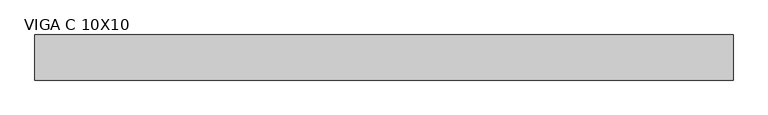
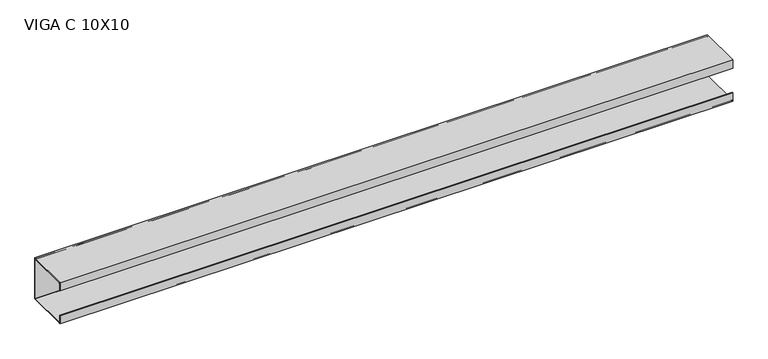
"""IFC4 building model written with IfcOpenShell, lengths in millimetres: beam geometry, VIGA PERFIL C AÇO : VIGA C 10X10."""

import ifcopenshell
import ifcopenshell.guid

model = None  # the IFC model being written
_history = None  # IfcOwnerHistory: only IFC2X3 demands one
_inside = {}  # id of a spatial element -> (the spatial element, [elements in it])
_under = {}  # id of a project, library or spatial element -> (it, [spatial elements below it])
_declared = {}  # id of a project -> (the project, [libraries it declares])
_typed = {}  # id of a type object -> (the type object, [elements of that type])
_made_of = {}  # id of a material, layer set ... -> (it, [elements and type objects made of it])


def new_model(schema):
    """Start an empty IFC model of exactly this schema.

    Asked for "IFC4X3", IfcOpenShell would pick the latest addendum, in which some entities
    have other attributes; the version numbers below select the first issue.
    IFC2X3 requires an IfcOwnerHistory on every rooted entity: one is made here for all.
    """
    global model, _history
    if schema == "IFC4X3":
        model = ifcopenshell.file(schema_version=(4, 3, 0, 0))
    else:
        model = ifcopenshell.file(schema=schema)
    _inside.clear()
    _under.clear()
    _declared.clear()
    _typed.clear()
    _made_of.clear()
    _history = None
    if model.schema == "IFC2X3":
        org = make("IfcOrganization", Name="unknown")
        user = make(
            "IfcPersonAndOrganization",
            ThePerson=make("IfcPerson", FamilyName="unknown"),
            TheOrganization=org,
        )
        app = make(
            "IfcApplication",
            ApplicationDeveloper=org,
            Version="unknown",
            ApplicationFullName="unknown",
            ApplicationIdentifier="unknown",
        )
        _history = make(
            "IfcOwnerHistory",
            OwningUser=user,
            OwningApplication=app,
            ChangeAction="ADDED",
            CreationDate=0,
        )
    return model


def make(cls, **values):
    """One entity of the class cls with the attributes given. An attribute that is None is left unset."""
    return model.create_entity(
        cls, **{name: value for name, value in values.items() if value is not None}
    )


def rooted(cls, **values):
    """An entity with a GlobalId (a new one), such as an element, a storey or a relation."""
    return make(cls, GlobalId=ifcopenshell.guid.new(), OwnerHistory=_history, **values)


def si_unit(unit_type, name, prefix=None):
    """IfcSIUnit, for example si_unit("LENGTHUNIT", "METRE", prefix="MILLI")."""
    return make("IfcSIUnit", UnitType=unit_type, Prefix=prefix, Name=name)


def assignment(units):
    """IfcUnitAssignment: the units of a project."""
    return None if units is None else make("IfcUnitAssignment", Units=units)


def point(xyz):
    """IfcCartesianPoint."""
    return None if xyz is None else make("IfcCartesianPoint", Coordinates=xyz)


def direction(xyz):
    """IfcDirection."""
    return None if xyz is None else make("IfcDirection", DirectionRatios=xyz)


def frame(location, z_axis=None, x_axis=None):
    """IfcAxis2Placement3D, a coordinate frame: its origin and axes. An axis left out is left unset."""
    return make(
        "IfcAxis2Placement3D",
        Location=point(location),
        Axis=direction(z_axis),
        RefDirection=direction(x_axis),
    )


def frame_2d(location, x_axis=None):
    """IfcAxis2Placement2D, a coordinate frame in the plane: its origin and x axis."""
    return make(
        "IfcAxis2Placement2D", Location=point(location), RefDirection=direction(x_axis)
    )


def origin():
    """The frame at (0, 0, 0) with its axes left unset."""
    return frame((0.0, 0.0, 0.0))


def place(relative_to, where):
    """IfcLocalPlacement: puts the frame where relative to a parent placement (None: the world)."""
    return make(
        "IfcLocalPlacement", PlacementRelTo=relative_to, RelativePlacement=where
    )


def context(
    kind, dimensions, precision=None, world=None, true_north=None, identifier=None
):
    """IfcGeometricRepresentationContext, for example the 3D "Model" context."""
    return make(
        "IfcGeometricRepresentationContext",
        ContextIdentifier=identifier,
        ContextType=kind,
        CoordinateSpaceDimension=dimensions,
        Precision=precision,
        WorldCoordinateSystem=world,
        TrueNorth=true_north,
    )


def project(units=None, contexts=None):
    """IfcProject with its units and contexts."""
    return rooted(
        "IfcProject",
        Name="project",
        RepresentationContexts=contexts,
        UnitsInContext=assignment(units),
    )


def spatial(cls, under=None, at=None, **own):
    """A site, building, storey or space (cls), placed at a placement, below another one or the project."""
    s = rooted(cls, ObjectPlacement=at, **own)
    if under is not None:
        _under.setdefault(under.id(), (under, []))[1].append(s)
    return s


def polyline(points):
    """IfcPolyline through the points."""
    return make("IfcPolyline", Points=[point(p) for p in points])


def circle_curve(where, radius):
    """IfcCircle in the frame where."""
    return make("IfcCircle", Position=where, Radius=radius)


def trimmed(basis, trim1, trim2, sense, master):
    """IfcTrimmedCurve: the piece of a basis curve between two trims."""
    return make(
        "IfcTrimmedCurve",
        BasisCurve=basis,
        Trim1=trim1,
        Trim2=trim2,
        SenseAgreement=sense,
        MasterRepresentation=master,
    )


def segment(curve, same_sense, transition):
    """IfcCompositeCurveSegment."""
    return make(
        "IfcCompositeCurveSegment",
        Transition=transition,
        SameSense=same_sense,
        ParentCurve=curve,
    )


def composite_curve(segments, self_intersect=None):
    """IfcCompositeCurve: segments joined end to end."""
    return make("IfcCompositeCurve", Segments=segments, SelfIntersect=self_intersect)


def outline(outer, holes=None, kind="AREA"):
    """IfcArbitraryClosedProfileDef: a profile drawn as a closed curve; with holes, ...WithVoids."""
    if holes is None:
        return make("IfcArbitraryClosedProfileDef", ProfileType=kind, OuterCurve=outer)
    return make(
        "IfcArbitraryProfileDefWithVoids",
        ProfileType=kind,
        OuterCurve=outer,
        InnerCurves=holes,
    )


def extrude(swept, where, along, depth):
    """IfcExtrudedAreaSolid: the profile swept, set in the frame where, extruded along a direction by depth."""
    return make(
        "IfcExtrudedAreaSolid",
        SweptArea=swept,
        Position=where,
        ExtrudedDirection=direction(along),
        Depth=depth,
    )


def shape(context_of_items, identifier, shape_type, items):
    """IfcShapeRepresentation: the items that make up one representation, for example the "Body"."""
    return make(
        "IfcShapeRepresentation",
        ContextOfItems=context_of_items,
        RepresentationIdentifier=identifier,
        RepresentationType=shape_type,
        Items=items,
    )


def source(mapping_origin, context_of_items, identifier, shape_type, items):
    """IfcRepresentationMap: a shape defined once, which mapped items show again and again."""
    return make(
        "IfcRepresentationMap",
        MappingOrigin=mapping_origin,
        MappedRepresentation=shape(context_of_items, identifier, shape_type, items),
    )


def transform(
    local_origin,
    x_axis=None,
    y_axis=None,
    z_axis=None,
    scale=None,
    scale2=None,
    scale3=None,
    uniform=True,
):
    """IfcCartesianTransformationOperator3D, or its non-uniform kind. x_axis, y_axis, z_axis: its Axis1, 2, 3."""
    if uniform:
        return make(
            "IfcCartesianTransformationOperator3D",
            Axis1=direction(x_axis),
            Axis2=direction(y_axis),
            LocalOrigin=point(local_origin),
            Scale=scale,
            Axis3=direction(z_axis),
        )
    return make(
        "IfcCartesianTransformationOperator3DnonUniform",
        Axis1=direction(x_axis),
        Axis2=direction(y_axis),
        LocalOrigin=point(local_origin),
        Scale=scale,
        Axis3=direction(z_axis),
        Scale2=scale2,
        Scale3=scale3,
    )


def mapped(mapping_source, mapping_target):
    """IfcMappedItem: shows the shape of a source again, moved by a transform."""
    return make(
        "IfcMappedItem", MappingSource=mapping_source, MappingTarget=mapping_target
    )


def made_of(thing, what):
    """Note that an element or type object is made of a material, layer set ...; save() writes the relation."""
    if what is not None:
        _made_of.setdefault(what.id(), (what, []))[1].append(thing)
    return thing


def element(
    cls,
    number,
    at=None,
    inside=None,
    cuts=None,
    type_object=None,
    material=None,
    context=None,
    identifier="Body",
    shape_type=None,
    held_by="IfcProductDefinitionShape",
    body=None,
    shapes=None,
    **own,
):
    """One element of the class cls, such as IfcWall. Its Tag is "e" and its number.

    at: its placement. inside: the storey or other place that contains it. cuts: it is an
    opening in that element (IfcRelVoidsElement). A single representation is given by context,
    identifier, shape_type and body (its items); several are given by shapes. held_by: the class
    of the entity that holds the representations. save() writes the other relations.
    """
    e = rooted(cls, Tag="e%d" % number, ObjectPlacement=at, **own)
    if body is not None:
        shapes = [shape(context, identifier, shape_type, body)]
    if shapes is not None:
        e.Representation = make(held_by, Representations=shapes)
    if inside is not None:
        _inside.setdefault(inside.id(), (inside, []))[1].append(e)
    if cuts is not None:
        rooted(
            "IfcRelVoidsElement", RelatingBuildingElement=cuts, RelatedOpeningElement=e
        )
    if type_object is not None:
        _typed.setdefault(type_object.id(), (type_object, []))[1].append(e)
    return made_of(e, material)


def aggregate(whole, parts):
    """IfcRelAggregates: a whole, such as a stair, and the parts it consists of."""
    return rooted("IfcRelAggregates", RelatingObject=whole, RelatedObjects=parts)


def save(model, path):
    """Write the relations noted so far, then the file.

    IfcRelAggregates (storeys below a building ...), IfcRelContainedInSpatialStructure (elements
    in a storey), IfcRelDefinesByType, IfcRelAssociatesMaterial and IfcRelDeclares: one each for
    every whole, place, type object, material and project.
    """
    for whole, parts in _under.values():
        aggregate(whole, parts)
    for where, things in _inside.values():
        rooted(
            "IfcRelContainedInSpatialStructure",
            RelatedElements=things,
            RelatingStructure=where,
        )
    for kind, things in _typed.values():
        rooted("IfcRelDefinesByType", RelatedObjects=things, RelatingType=kind)
    for what, things in _made_of.values():
        rooted("IfcRelAssociatesMaterial", RelatedObjects=things, RelatingMaterial=what)
    for by, libraries in _declared.values():
        rooted("IfcRelDeclares", RelatingContext=by, RelatedDefinitions=libraries)
    model.write(path)


def viga_c_10x10_66f59e24(model_context):
    return source(origin(), model_context, "Body", "SweptSolid", [
        extrude(outline(polyline([(9.2, -50.0), (-90.8, -50.0), (-90.8, -30.0), (-88.9, -30.0), (-88.9, -48.1), (7.3, -48.1), (7.3, 48.1), (-88.9, 48.1), (-88.9, 30.0), (-90.8, 30.0), (-90.8, 50.0), (9.2, 50.0), (9.2, -50.0)])), frame((-797.5, 0.0, 0.0), z_axis=(1.0, 0.0, 0.0), x_axis=(0.0, 1.0, 0.0)), (0.0, 0.0, 1.0), 1547.0),
        extrude(outline(composite_curve([segment(trimmed(circle_curve(frame_2d((5.4, -46.2)), 3.8), [point((9.2, -46.2))], [point((5.4, -50.0))], False, "CARTESIAN"), True, "CONTINUOUS"), segment(polyline([(5.4, -50.0), (-87.0, -50.0)]), True, "CONTINUOUS"), segment(trimmed(circle_curve(frame_2d((-87.0, -46.2)), 3.8), [point((-87.0, -50.0))], [point((-90.8, -46.2))], False, "CARTESIAN"), True, "CONTINUOUS"), segment(polyline([(-90.8, -46.2), (-90.8, -30.0), (-88.9, -30.0), (-88.9, -46.2)]), True, "CONTINUOUS"), segment(trimmed(circle_curve(frame_2d((-87.0, -46.2)), 1.9), [point((-88.9, -46.2))], [point((-87.0, -48.1))], True, "CARTESIAN"), True, "CONTINUOUS"), segment(polyline([(-87.0, -48.1), (5.4, -48.1)]), True, "CONTINUOUS"), segment(trimmed(circle_curve(frame_2d((5.4, -46.2)), 1.9), [point((5.4, -48.1))], [point((7.3, -46.2))], True, "CARTESIAN"), True, "CONTINUOUS"), segment(polyline([(7.3, -46.2), (7.3, 46.2)]), True, "CONTINUOUS"), segment(trimmed(circle_curve(frame_2d((5.4, 46.2)), 1.9), [point((7.3, 46.2))], [point((5.4, 48.1))], True, "CARTESIAN"), True, "CONTINUOUS"), segment(polyline([(5.4, 48.1), (-87.0, 48.1)]), True, "CONTINUOUS"), segment(trimmed(circle_curve(frame_2d((-87.0, 46.2)), 1.9), [point((-87.0, 48.1))], [point((-88.9, 46.2))], True, "CARTESIAN"), True, "CONTINUOUS"), segment(polyline([(-88.9, 46.2), (-88.9, 30.0), (-90.8, 30.0), (-90.8, 46.2)]), True, "CONTINUOUS"), segment(trimmed(circle_curve(frame_2d((-87.0, 46.2)), 3.8), [point((-90.8, 46.2))], [point((-87.0, 50.0))], False, "CARTESIAN"), True, "CONTINUOUS"), segment(polyline([(-87.0, 50.0), (5.4, 50.0)]), True, "CONTINUOUS"), segment(trimmed(circle_curve(frame_2d((5.4, 46.2)), 3.8), [point((5.4, 50.0))], [point((9.2, 46.2))], False, "CARTESIAN"), True, "CONTINUOUS"), segment(polyline([(9.2, 46.2), (9.2, -46.2)]), True, "CONTINUOUS")], self_intersect=False)), frame((-797.5, 0.0, 0.0), z_axis=(1.0, 0.0, 0.0), x_axis=(0.0, 1.0, 0.0)), (0.0, 0.0, 1.0), 1547.0),
    ])


if __name__ == "__main__":
    model = new_model("IFC4")
    model_context = context("Model", 3, world=origin())
    ifc_project = project(units=[si_unit("LENGTHUNIT", "METRE", prefix="MILLI")], contexts=[model_context])
    site = spatial("IfcSite", under=ifc_project)
    building = spatial("IfcBuilding", under=site)
    placement = place(None, origin())
    viga_c_10x10_shape = viga_c_10x10_66f59e24(model_context)
    element("IfcBeam", 1, ObjectType="VIGA PERFIL C AÇO : VIGA C 10X10", at=placement, inside=building, context=model_context, shape_type="MappedRepresentation", body=[
        mapped(viga_c_10x10_shape, transform((0.0, 0.0, 0.0), x_axis=(1.0, 0.0, 0.0), y_axis=(0.0, 1.0, 0.0), z_axis=(0.0, 0.0, 1.0))),
    ])
    save(model, "model.ifc")
